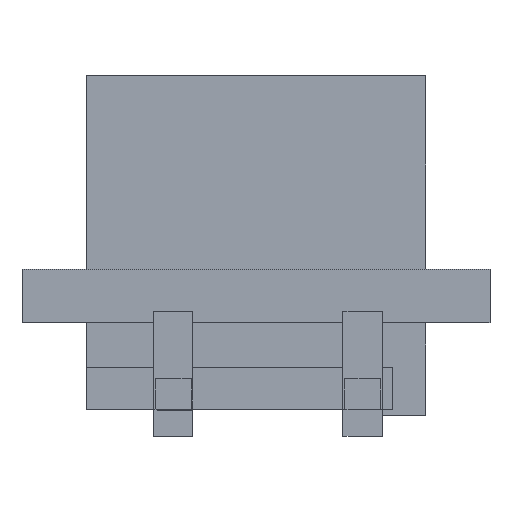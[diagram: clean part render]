
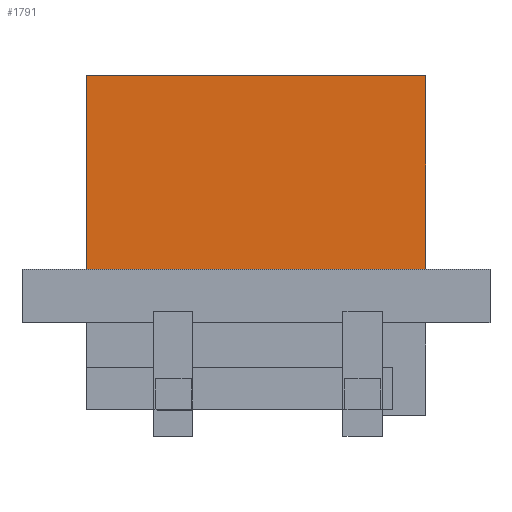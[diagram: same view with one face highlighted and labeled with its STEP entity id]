
A CAD part, front view. The second image highlights one B-rep face of the part: STEP entity #1791.
In plain terms, the highlighted planar face has unit normal (0, -1, 0).
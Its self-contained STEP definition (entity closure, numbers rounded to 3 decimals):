
#126 = PLANE('',#127);
#127 = AXIS2_PLACEMENT_3D('',#128,#129,#130);
#128 = CARTESIAN_POINT('',(65.,95.3,86.8));
#129 = DIRECTION('',(0.,0.,1.));
#130 = DIRECTION('',(1.,0.,0.));
#500 = VERTEX_POINT('',#501);
#501 = CARTESIAN_POINT('',(101.28,101.4,86.8));
#514 = PLANE('',#515);
#515 = AXIS2_PLACEMENT_3D('',#516,#517,#518);
#516 = CARTESIAN_POINT('',(101.28,94.7,73.65));
#517 = DIRECTION('',(1.,0.,0.));
#518 = DIRECTION('',(0.,0.,1.));
#525 = EDGE_CURVE('',#500,#526,#528,.T.);
#526 = VERTEX_POINT('',#527);
#527 = CARTESIAN_POINT('',(70.82,101.4,86.8));
#528 = SURFACE_CURVE('',#529,(#533,#539),.PCURVE_S1.);
#529 = LINE('',#530,#531);
#530 = CARTESIAN_POINT('',(0.475,101.4,86.8));
#531 = VECTOR('',#532,1.);
#532 = DIRECTION('',(-1.,0.,0.));
#533 = PCURVE('',#126,#534);
#534 = DEFINITIONAL_REPRESENTATION('',(#535),#538);
#535 = B_SPLINE_CURVE_WITH_KNOTS('',1,(#536,#537),.UNSPECIFIED.,.F.,.F.,
  (2,2),(-100.805,-70.345),.PIECEWISE_BEZIER_KNOTS.);
#536 = CARTESIAN_POINT('',(36.28,6.1));
#537 = CARTESIAN_POINT('',(5.82,6.1));
#538 = ( GEOMETRIC_REPRESENTATION_CONTEXT(2) 
PARAMETRIC_REPRESENTATION_CONTEXT() REPRESENTATION_CONTEXT('2D SPACE',''
  ) );
#539 = PCURVE('',#540,#545);
#540 = PLANE('',#541);
#541 = AXIS2_PLACEMENT_3D('',#542,#543,#544);
#542 = CARTESIAN_POINT('',(-64.05,101.4,41.6));
#543 = DIRECTION('',(0.,1.,0.));
#544 = DIRECTION('',(0.,0.,1.));
#545 = DEFINITIONAL_REPRESENTATION('',(#546),#549);
#546 = B_SPLINE_CURVE_WITH_KNOTS('',1,(#547,#548),.UNSPECIFIED.,.F.,.F.,
  (2,2),(-100.805,-70.345),.PIECEWISE_BEZIER_KNOTS.);
#547 = CARTESIAN_POINT('',(45.2,165.33));
#548 = CARTESIAN_POINT('',(45.2,134.87));
#549 = ( GEOMETRIC_REPRESENTATION_CONTEXT(2) 
PARAMETRIC_REPRESENTATION_CONTEXT() REPRESENTATION_CONTEXT('2D SPACE',''
  ) );
#564 = PLANE('',#565);
#565 = AXIS2_PLACEMENT_3D('',#566,#567,#568);
#566 = CARTESIAN_POINT('',(70.82,94.7,73.65));
#567 = DIRECTION('',(1.,0.,0.));
#568 = DIRECTION('',(0.,0.,1.));
#1489 = VERTEX_POINT('',#1490);
#1490 = CARTESIAN_POINT('',(70.82,101.4,104.2));
#1506 = PLANE('',#1507);
#1507 = AXIS2_PLACEMENT_3D('',#1508,#1509,#1510);
#1508 = CARTESIAN_POINT('',(70.6,94.5,104.2));
#1509 = DIRECTION('',(0.,0.,1.));
#1510 = DIRECTION('',(1.,0.,0.));
#1518 = EDGE_CURVE('',#1489,#526,#1519,.T.);
#1519 = SURFACE_CURVE('',#1520,(#1524,#1530),.PCURVE_S1.);
#1520 = LINE('',#1521,#1522);
#1521 = CARTESIAN_POINT('',(70.82,101.4,57.625));
#1522 = VECTOR('',#1523,1.);
#1523 = DIRECTION('',(0.,0.,-1.));
#1524 = PCURVE('',#564,#1525);
#1525 = DEFINITIONAL_REPRESENTATION('',(#1526),#1529);
#1526 = B_SPLINE_CURVE_WITH_KNOTS('',1,(#1527,#1528),.UNSPECIFIED.,.F.,
  .F.,(2,2),(-46.575,-16.025),.PIECEWISE_BEZIER_KNOTS.);
#1527 = CARTESIAN_POINT('',(30.55,-6.7));
#1528 = CARTESIAN_POINT('',(0.,-6.7));
#1529 = ( GEOMETRIC_REPRESENTATION_CONTEXT(2) 
PARAMETRIC_REPRESENTATION_CONTEXT() REPRESENTATION_CONTEXT('2D SPACE',''
  ) );
#1530 = PCURVE('',#540,#1531);
#1531 = DEFINITIONAL_REPRESENTATION('',(#1532),#1535);
#1532 = B_SPLINE_CURVE_WITH_KNOTS('',1,(#1533,#1534),.UNSPECIFIED.,.F.,
  .F.,(2,2),(-46.575,-16.025),.PIECEWISE_BEZIER_KNOTS.);
#1533 = CARTESIAN_POINT('',(62.6,134.87));
#1534 = CARTESIAN_POINT('',(32.05,134.87));
#1535 = ( GEOMETRIC_REPRESENTATION_CONTEXT(2) 
PARAMETRIC_REPRESENTATION_CONTEXT() REPRESENTATION_CONTEXT('2D SPACE',''
  ) );
#1791 = ADVANCED_FACE('',(#1792),#540,.F.);
#1792 = FACE_BOUND('',#1793,.F.);
#1793 = EDGE_LOOP('',(#1794,#1815,#1816,#1817));
#1794 = ORIENTED_EDGE('',*,*,#1795,.T.);
#1795 = EDGE_CURVE('',#1796,#500,#1798,.T.);
#1796 = VERTEX_POINT('',#1797);
#1797 = CARTESIAN_POINT('',(101.28,101.4,104.2));
#1798 = SURFACE_CURVE('',#1799,(#1803,#1809),.PCURVE_S1.);
#1799 = LINE('',#1800,#1801);
#1800 = CARTESIAN_POINT('',(101.28,101.4,57.625));
#1801 = VECTOR('',#1802,1.);
#1802 = DIRECTION('',(0.,0.,-1.));
#1803 = PCURVE('',#540,#1804);
#1804 = DEFINITIONAL_REPRESENTATION('',(#1805),#1808);
#1805 = B_SPLINE_CURVE_WITH_KNOTS('',1,(#1806,#1807),.UNSPECIFIED.,.F.,
  .F.,(2,2),(-46.575,-16.025),.PIECEWISE_BEZIER_KNOTS.);
#1806 = CARTESIAN_POINT('',(62.6,165.33));
#1807 = CARTESIAN_POINT('',(32.05,165.33));
#1808 = ( GEOMETRIC_REPRESENTATION_CONTEXT(2) 
PARAMETRIC_REPRESENTATION_CONTEXT() REPRESENTATION_CONTEXT('2D SPACE',''
  ) );
#1809 = PCURVE('',#514,#1810);
#1810 = DEFINITIONAL_REPRESENTATION('',(#1811),#1814);
#1811 = B_SPLINE_CURVE_WITH_KNOTS('',1,(#1812,#1813),.UNSPECIFIED.,.F.,
  .F.,(2,2),(-46.575,-16.025),.PIECEWISE_BEZIER_KNOTS.);
#1812 = CARTESIAN_POINT('',(30.55,-6.7));
#1813 = CARTESIAN_POINT('',(0.,-6.7));
#1814 = ( GEOMETRIC_REPRESENTATION_CONTEXT(2) 
PARAMETRIC_REPRESENTATION_CONTEXT() REPRESENTATION_CONTEXT('2D SPACE',''
  ) );
#1815 = ORIENTED_EDGE('',*,*,#525,.T.);
#1816 = ORIENTED_EDGE('',*,*,#1518,.F.);
#1817 = ORIENTED_EDGE('',*,*,#1818,.T.);
#1818 = EDGE_CURVE('',#1489,#1796,#1819,.T.);
#1819 = SURFACE_CURVE('',#1820,(#1824,#1830),.PCURVE_S1.);
#1820 = LINE('',#1821,#1822);
#1821 = CARTESIAN_POINT('',(3.275,101.4,104.2));
#1822 = VECTOR('',#1823,1.);
#1823 = DIRECTION('',(1.,0.,0.));
#1824 = PCURVE('',#540,#1825);
#1825 = DEFINITIONAL_REPRESENTATION('',(#1826),#1829);
#1826 = B_SPLINE_CURVE_WITH_KNOTS('',1,(#1827,#1828),.UNSPECIFIED.,.F.,
  .F.,(2,2),(67.325,98.225),.PIECEWISE_BEZIER_KNOTS.);
#1827 = CARTESIAN_POINT('',(62.6,134.65));
#1828 = CARTESIAN_POINT('',(62.6,165.55));
#1829 = ( GEOMETRIC_REPRESENTATION_CONTEXT(2) 
PARAMETRIC_REPRESENTATION_CONTEXT() REPRESENTATION_CONTEXT('2D SPACE',''
  ) );
#1830 = PCURVE('',#1506,#1831);
#1831 = DEFINITIONAL_REPRESENTATION('',(#1832),#1835);
#1832 = B_SPLINE_CURVE_WITH_KNOTS('',1,(#1833,#1834),.UNSPECIFIED.,.F.,
  .F.,(2,2),(67.325,98.225),.PIECEWISE_BEZIER_KNOTS.);
#1833 = CARTESIAN_POINT('',(0.,6.9));
#1834 = CARTESIAN_POINT('',(30.9,6.9));
#1835 = ( GEOMETRIC_REPRESENTATION_CONTEXT(2) 
PARAMETRIC_REPRESENTATION_CONTEXT() REPRESENTATION_CONTEXT('2D SPACE',''
  ) );
